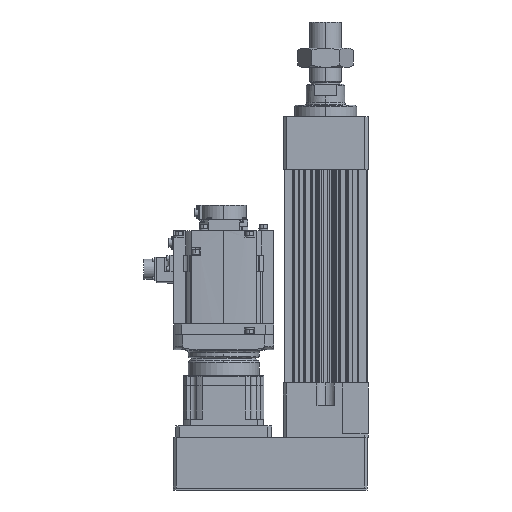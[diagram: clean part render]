
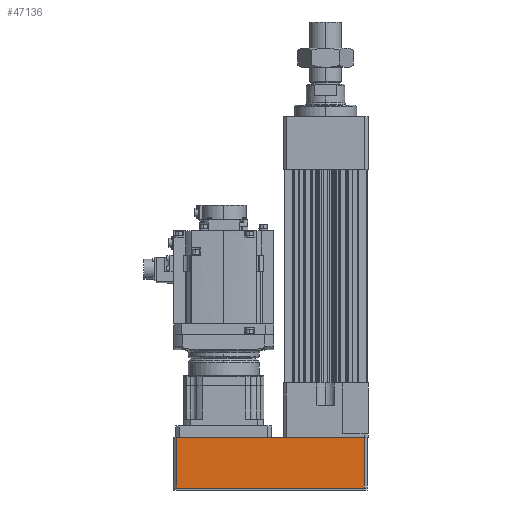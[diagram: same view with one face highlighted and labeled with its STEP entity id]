
A CAD part, left-side view. The second image highlights one B-rep face of the part: STEP entity #47136.
In plain terms, the highlighted planar face has unit normal (-1, 0, 0).
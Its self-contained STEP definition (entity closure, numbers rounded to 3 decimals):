
#635 = EDGE_CURVE ( 'NONE', #24925, #24397, #31859, .T. ) ;
#1736 = LINE ( 'NONE', #31143, #30835 ) ;
#2104 = DIRECTION ( 'NONE',  ( 0., -1., 0. ) ) ;
#5088 = DIRECTION ( 'NONE',  ( 1., 0., 0. ) ) ;
#6638 = ORIENTED_EDGE ( 'NONE', *, *, #635, .T. ) ;
#6694 = VECTOR ( 'NONE', #29249, 1000. ) ;
#8048 = LINE ( 'NONE', #50561, #6694 ) ;
#16882 = LINE ( 'NONE', #28758, #24364 ) ;
#19120 = AXIS2_PLACEMENT_3D ( 'NONE', #21738, #5088, #48388 ) ;
#21738 = CARTESIAN_POINT ( 'NONE',  ( -73.5, 73.5, 90. ) ) ;
#21828 = DIRECTION ( 'NONE',  ( 0., 0., -1. ) ) ;
#24364 = VECTOR ( 'NONE', #2104, 1000. ) ;
#24397 = VERTEX_POINT ( 'NONE', #32935 ) ;
#24424 = VECTOR ( 'NONE', #46389, 1000. ) ;
#24925 = VERTEX_POINT ( 'NONE', #29112 ) ;
#25058 = ORIENTED_EDGE ( 'NONE', *, *, #55682, .T. ) ;
#25141 = CARTESIAN_POINT ( 'NONE',  ( -73.5, 68.5, 0.5 ) ) ;
#26032 = CARTESIAN_POINT ( 'NONE',  ( -73.5, -264., 0.5 ) ) ;
#28758 = CARTESIAN_POINT ( 'NONE',  ( -73.5, 73.5, 0.5 ) ) ;
#29112 = CARTESIAN_POINT ( 'NONE',  ( -73.5, -264., 89.5 ) ) ;
#29166 = EDGE_CURVE ( 'NONE', #24397, #40424, #1736, .T. ) ;
#29249 = DIRECTION ( 'NONE',  ( 0., 0., 1. ) ) ;
#30835 = VECTOR ( 'NONE', #21828, 1000. ) ;
#31143 = CARTESIAN_POINT ( 'NONE',  ( -73.5, 68.5, 90. ) ) ;
#31859 = LINE ( 'NONE', #46784, #24424 ) ;
#32935 = CARTESIAN_POINT ( 'NONE',  ( -73.5, 68.5, 89.5 ) ) ;
#34864 = ORIENTED_EDGE ( 'NONE', *, *, #29166, .T. ) ;
#39768 = VERTEX_POINT ( 'NONE', #26032 ) ;
#40424 = VERTEX_POINT ( 'NONE', #25141 ) ;
#46389 = DIRECTION ( 'NONE',  ( 0., 1., 0. ) ) ;
#46784 = CARTESIAN_POINT ( 'NONE',  ( -73.5, 68.5, 89.5 ) ) ;
#47136 = ADVANCED_FACE ( 'NONE', ( #51551 ), #47641, .F. ) ;
#47282 = ORIENTED_EDGE ( 'NONE', *, *, #48892, .T. ) ;
#47641 = PLANE ( 'NONE',  #19120 ) ;
#48388 = DIRECTION ( 'NONE',  ( 0., 1., 0. ) ) ;
#48892 = EDGE_CURVE ( 'NONE', #40424, #39768, #16882, .T. ) ;
#50561 = CARTESIAN_POINT ( 'NONE',  ( -73.5, -264., 90. ) ) ;
#51551 = FACE_OUTER_BOUND ( 'NONE', #53312, .T. ) ;
#53312 = EDGE_LOOP ( 'NONE', ( #34864, #47282, #25058, #6638 ) ) ;
#55682 = EDGE_CURVE ( 'NONE', #39768, #24925, #8048, .T. ) ;
